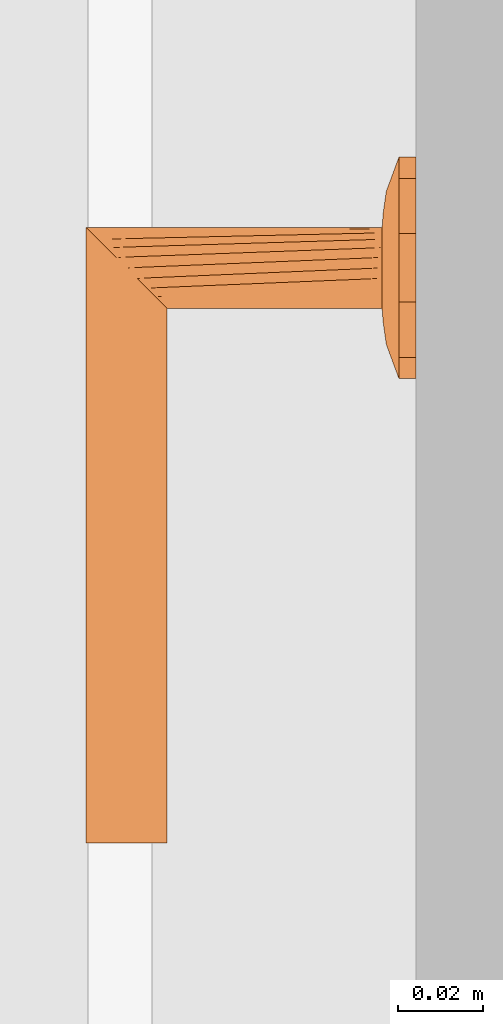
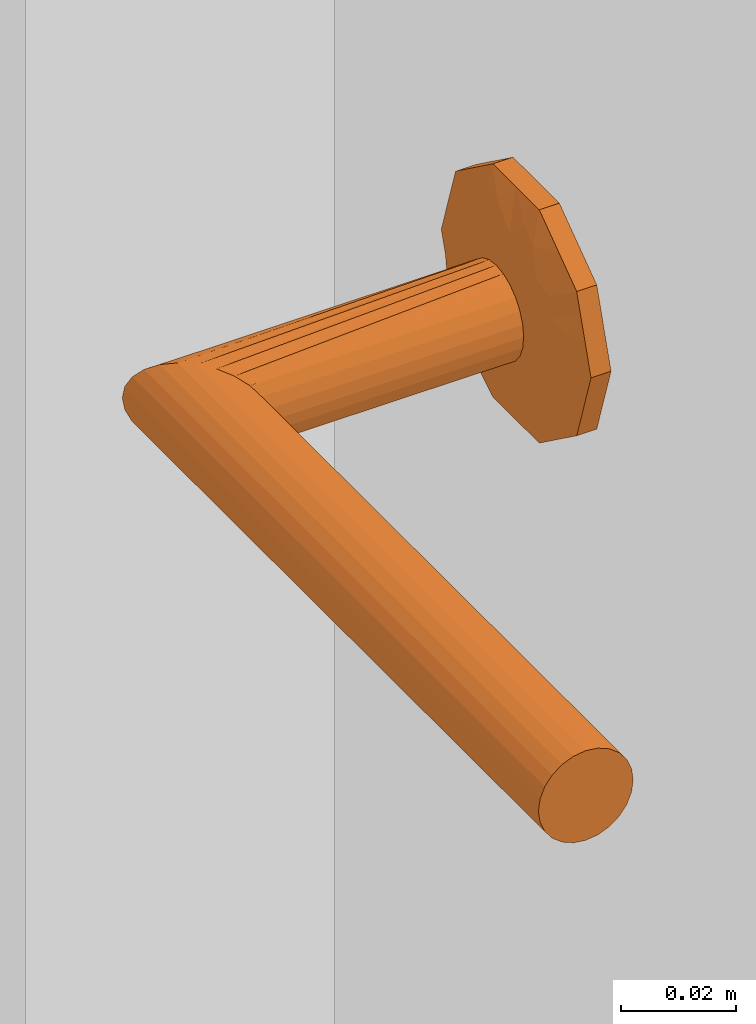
# One storey, part 40 of 42: 1 proxy.
"""IFC2X3 building model written with IfcOpenShell, lengths in millimetres."""

from ifc_helpers import new_model, entity, si_unit, converted_unit, direction, frame, origin, place, context, subcontext, project, spatial, faceted_brep, source, transform, mapped, material, type_object, type_shapes, element, save


model = new_model("IFC2X3")

# Units and contexts
model_context = context("Model", 3, precision=0.01, world=origin(), true_north=direction((6.123233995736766e-17, 1.0)))
plan_context = context("Plan", 3, precision=0.01, world=origin(), true_north=direction((6.123233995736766e-17, 1.0)))
body_context = subcontext(model_context, "Body", "Model", "MODEL_VIEW")
ifc_project = project(units=[si_unit("LENGTHUNIT", "METRE", prefix="MILLI"), converted_unit("PLANEANGLEUNIT", "DEGREE", entity("IfcPlaneAngleMeasure", 0.017453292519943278), si_unit("PLANEANGLEUNIT", "RADIAN"), dimensions=[0, 0, 0, 0, 0, 0, 0]), si_unit("AREAUNIT", "SQUARE_METRE")], contexts=[model_context, plan_context])

# Site, building, storey
site_placement = place(None, origin())
site = spatial("IfcSite", under=ifc_project, at=site_placement, Name="Default", CompositionType="ELEMENT")
building_placement = place(site_placement, origin())
building = spatial("IfcBuilding", under=site, at=building_placement, CompositionType="ELEMENT")
storey_placement = place(building_placement, frame((0.0, 0.0, 9465.000076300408)))
storey = spatial("IfcBuildingStorey", under=building, at=storey_placement, Name="4K", CompositionType="ELEMENT", Elevation=9465.000076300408)

# Proxy
ifc_material = material(Name="<Unnamed>")
building_element_proxy_type = type_object("IfcBuildingElementProxyType", Name="Door-handle_Lever_ABLOY_INOXI_3-19ss-002_RT:Default", PredefinedType="NOTDEFINED", material=ifc_material)
shared_shape = source(origin(), body_context, "Body", "Brep", [
    faceted_brep([(0.0, 0.0, 0.0), (8.034441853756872, 24.72746942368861, 0.0), (14.534441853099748, 20.00494299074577, 0.0), (21.034441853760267, 15.282416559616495, 0.0), (23.51722092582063, 7.641208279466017, 0.0), (26.0, 0.0, 0.0), (23.517220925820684, -7.641208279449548, 0.0), (0.0, 24.72746942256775, 0.0), (-8.034441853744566, 24.727469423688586, 0.0), (-14.534441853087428, 20.00494299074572, 0.0), (-21.03444185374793, 15.282416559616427, 0.0), (-23.517220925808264, 7.641208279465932, 0.0), (-26.0, 0.0, 0.0), (21.034441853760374, -15.282416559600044, 0.0), (14.534441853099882, -20.004942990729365, 0.0), (8.034441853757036, -24.72746942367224, 0.0), (0.0, -24.72746942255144, 0.0), (-23.517220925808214, -7.641208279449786, 0.0), (-21.034441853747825, -15.282416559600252, 0.0), (-14.53444185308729, -20.004942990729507, 0.0), (-8.0344418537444, -24.72746942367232, 0.0), (0.0, 0.0, 8.0), (9.500000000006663, 0.0, 8.0), (8.312500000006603, 2.056810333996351, 8.0), (7.125000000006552, 4.113620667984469, 8.0), (5.937500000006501, 6.170431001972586, 8.0), (4.7500000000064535, 8.227241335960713, 8.0), (2.375000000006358, 8.2272413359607, 8.0), (0.0, 8.227241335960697, 8.0), (-2.3749999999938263, 8.227241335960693, 8.0), (-4.749999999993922, 8.227241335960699, 8.0), (-5.937499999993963, 6.1704310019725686, 8.0), (-7.124999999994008, 4.1136206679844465, 8.0), (-8.312499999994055, 2.0568103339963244, 8.0), (-9.499999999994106, 0.0, 8.0), (-8.31249999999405, -2.0568103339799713, 8.0), (8.312500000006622, -2.0568103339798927, 8.0), (7.125000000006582, -4.113620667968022, 8.0), (5.937500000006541, -6.170431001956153, 8.0), (4.750000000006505, -8.227241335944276, 8.0), (-7.124999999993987, -4.113620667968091, 8.0), (-5.9374999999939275, -6.17043100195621, 8.0), (-4.74999999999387, -8.227241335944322, 8.0), (-2.374999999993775, -8.227241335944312, 8.0), (0.0, -8.227241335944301, 8.0), (2.3750000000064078, -8.227241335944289, 8.0), (-20.6430713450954, 6.292822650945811, 5.929480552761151), (-16.663919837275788, 7.932665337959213, 6.877259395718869), (-22.48876527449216, 10.806469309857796, 4.030771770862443), (-16.764060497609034, 3.8202578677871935, 7.1747985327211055), (-12.504579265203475, 5.179566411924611, 7.774932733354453), (-11.979136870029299, 13.678312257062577, 6.945778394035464), (-11.963426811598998, 8.62529041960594, 7.618343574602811), (-9.07172672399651, 10.31160661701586, 7.7520782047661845), (8.03444185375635, 24.727469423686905, 4.030771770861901), (0.0, 24.72746942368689, 4.030771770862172), (5.758554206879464, 20.96753300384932, 5.871476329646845), (20.643071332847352, 6.292822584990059, 5.929480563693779), (22.488765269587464, 10.806469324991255, 4.03077177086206), (16.66391982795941, 7.9326653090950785, 6.877259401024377), (9.49943163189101, 18.6436835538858, 6.154325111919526), (14.534441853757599, 20.004942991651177, 4.030771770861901), (-14.534441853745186, 20.00494299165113, 4.030771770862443), (-21.034441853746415, 15.282416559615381, 4.030771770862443), (-15.783149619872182, 11.991003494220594, 6.50080018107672), (-23.943088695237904, 6.330522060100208, 4.030771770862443), (-23.012042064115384, 0.0, 5.135401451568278), (12.50457924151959, 5.179566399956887, 7.774932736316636), (11.963426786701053, 8.625290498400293, 7.618343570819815), (16.76406041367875, 3.820257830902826, 7.17479855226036), (15.783149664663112, 11.991003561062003, 6.50080015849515), (23.01204200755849, 0.0, 5.135401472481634), (17.9853516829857, 0.0, 6.993737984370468), (8.661516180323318, 10.478936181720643, 7.768126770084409), (-3.3573143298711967, 21.197247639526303, 5.971427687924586), (-8.03444185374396, 24.727469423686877, 4.030771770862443), (-7.711266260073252, 12.76034452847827, 7.594456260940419), (-5.97325794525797, 16.43013906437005, 7.110979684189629), (-9.94191586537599, 17.061976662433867, 6.522757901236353), (11.979136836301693, 13.678312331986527, 6.945778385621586), (5.953298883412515, 16.50608604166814, 7.096344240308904), (7.511307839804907, 13.358932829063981, 7.529187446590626), (-1.5654593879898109, 15.307443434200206, 7.519134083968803), (-7.784980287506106, 20.476295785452, 5.812837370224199), (2.8135289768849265, 17.763922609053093, 6.993737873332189), (-17.985351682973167, 0.0, 6.993737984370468), (-26.0, 0.0, 4.030771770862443), (-23.51722092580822, 7.641208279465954, 4.030771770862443), (26.0, 0.0, 4.030771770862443), (24.308823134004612, 5.204907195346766, 4.030771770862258), (23.943088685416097, 6.330522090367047, 4.030771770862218), (21.03444185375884, 15.282416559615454, 4.030771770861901), (22.617646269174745, 10.40981439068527, 4.030771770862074), (20.6430713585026, -6.292822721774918, 5.929480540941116), (16.663919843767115, -7.932665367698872, 6.877259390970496), (22.48876527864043, -10.8064692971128, 4.030771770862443), (16.764060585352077, -3.8202579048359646, 7.174798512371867), (12.504579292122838, -5.17956641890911, 7.774932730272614), (11.979136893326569, -13.678312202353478, 6.9457784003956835), (11.963426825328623, -8.62529034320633, 7.618343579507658), (9.071726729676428, -10.311606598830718, 7.752078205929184), (-8.03444185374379, -24.727469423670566, 4.030771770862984), (0.0, -24.727469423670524, 4.030771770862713), (-5.758554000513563, -20.96753314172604, 5.8714763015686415), (-20.643071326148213, -6.292822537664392, 5.929480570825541), (-22.488765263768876, -10.80646934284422, 4.030771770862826), (-16.66391981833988, -7.932665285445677, 6.877259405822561), (-9.499431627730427, -18.643683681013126, 6.154325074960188), (-14.534441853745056, -20.004942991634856, 4.030771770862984), (14.53444185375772, -20.00494299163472, 4.030771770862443), (21.034441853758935, -15.282416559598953, 4.030771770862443), (15.783149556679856, -11.991003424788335, 6.5008002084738), (23.943088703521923, -6.330522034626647, 4.030771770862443), (-12.504579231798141, -5.17956638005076, 7.77493273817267), (-11.963426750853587, -8.625290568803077, 7.618343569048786), (-16.764060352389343, -3.8202577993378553, 7.174798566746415), (-15.783149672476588, -11.991003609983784, 6.500800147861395), (-8.661516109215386, -10.478936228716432, 7.768126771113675), (3.3573144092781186, -21.197247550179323, 5.971427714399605), (8.034441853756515, -24.727469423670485, 4.030771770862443), (7.711266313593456, -12.760344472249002, 7.5944562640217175), (5.9732581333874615, -16.430139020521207, 7.110979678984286), (9.941915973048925, -17.06197655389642, 6.522757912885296), (-11.979136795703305, -13.678312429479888, 6.945778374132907), (-5.953298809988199, -16.506086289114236, 7.096344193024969), (-7.511307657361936, -13.358932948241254, 7.5291874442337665), (1.5654596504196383, -15.3074431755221, 7.519134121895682), (7.784980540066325, -20.476295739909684, 5.812837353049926), (-2.81352881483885, -17.76392263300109, 6.993737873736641), (23.517220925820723, -7.64120827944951, 4.030771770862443), (-24.308823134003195, -5.20490719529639, 4.030771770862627), (-23.943088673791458, -6.330522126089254, 4.030771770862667), (-21.034441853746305, -15.282416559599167, 4.030771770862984), (-22.617646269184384, -10.409814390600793, 4.0307717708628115)], [[[0, 1, 2]], [[0, 2, 3]], [[0, 3, 4]], [[0, 4, 5]], [[0, 5, 6]], [[0, 7, 1]], [[0, 8, 7]], [[0, 9, 8]], [[0, 10, 9]], [[0, 11, 10]], [[0, 12, 11]], [[0, 6, 13]], [[0, 13, 14]], [[0, 14, 15]], [[0, 15, 16]], [[0, 17, 12]], [[0, 18, 17]], [[0, 19, 18]], [[0, 20, 19]], [[0, 16, 20]], [[21, 22, 23]], [[21, 23, 24]], [[21, 24, 25]], [[21, 25, 26]], [[21, 26, 27]], [[21, 27, 28]], [[21, 28, 29]], [[21, 29, 30]], [[21, 30, 31]], [[21, 31, 32]], [[21, 32, 33]], [[21, 33, 34]], [[21, 34, 35]], [[21, 36, 22]], [[21, 37, 36]], [[21, 38, 37]], [[21, 39, 38]], [[21, 35, 40]], [[21, 40, 41]], [[21, 41, 42]], [[21, 42, 43]], [[21, 43, 44]], [[21, 44, 45]], [[21, 45, 39]], [[46, 47, 48]], [[49, 50, 47]], [[33, 32, 50]], [[51, 52, 53]], [[32, 52, 50]], [[49, 47, 46]], [[54, 55, 56]], [[57, 58, 59]], [[60, 61, 54]], [[62, 63, 64]], [[46, 65, 66]], [[67, 59, 68]], [[23, 69, 67]], [[70, 68, 59]], [[23, 22, 69]], [[52, 51, 64]], [[71, 69, 72]], [[73, 25, 68]], [[74, 55, 75]], [[76, 77, 78]], [[70, 61, 79]], [[71, 57, 69]], [[60, 80, 81]], [[51, 76, 78]], [[77, 29, 82]], [[26, 81, 27]], [[74, 83, 77]], [[77, 82, 74]], [[74, 84, 55]], [[34, 49, 85]], [[23, 67, 24]], [[28, 84, 82]], [[74, 82, 84]], [[29, 76, 30]], [[29, 28, 82]], [[49, 34, 33]], [[47, 50, 52]], [[47, 52, 64]], [[50, 49, 33]], [[53, 76, 51]], [[52, 32, 31]], [[49, 66, 85]], [[86, 66, 65]], [[24, 67, 68]], [[83, 78, 77]], [[49, 46, 66]], [[48, 64, 63]], [[46, 48, 87, 65]], [[48, 47, 64]], [[59, 67, 69]], [[26, 73, 81]], [[79, 68, 70]], [[25, 24, 68]], [[71, 88, 89, 90]], [[22, 72, 69]], [[59, 69, 57]], [[79, 61, 60]], [[51, 62, 64]], [[70, 58, 91]], [[90, 57, 71]], [[58, 70, 59]], [[57, 90, 92]], [[79, 60, 81]], [[61, 70, 91]], [[56, 80, 60]], [[79, 81, 73]], [[80, 84, 27]], [[79, 73, 68]], [[27, 84, 28]], [[25, 73, 26]], [[77, 76, 29]], [[31, 30, 53]], [[78, 62, 51]], [[75, 62, 83]], [[78, 83, 62]], [[75, 83, 74]], [[76, 53, 30]], [[31, 53, 52]], [[81, 80, 27]], [[84, 80, 56]], [[84, 56, 55]], [[54, 56, 60]], [[93, 94, 95]], [[96, 97, 94]], [[36, 37, 97]], [[98, 99, 100]], [[37, 99, 97]], [[96, 94, 93]], [[101, 102, 103]], [[104, 105, 106]], [[107, 108, 101]], [[109, 110, 111]], [[93, 112, 71]], [[113, 106, 114]], [[35, 115, 113]], [[116, 114, 106]], [[35, 34, 115]], [[99, 98, 111]], [[66, 115, 85]], [[117, 41, 114]], [[118, 102, 119]], [[120, 121, 122]], [[116, 108, 123]], [[66, 104, 115]], [[107, 124, 125]], [[120, 45, 121]], [[121, 45, 126]], [[42, 125, 43]], [[118, 127, 121]], [[121, 126, 118]], [[118, 128, 102]], [[22, 96, 72]], [[35, 113, 40]], [[44, 128, 126]], [[118, 126, 128]], [[45, 120, 39]], [[45, 44, 126]], [[96, 22, 36]], [[94, 97, 99]], [[94, 99, 111]], [[97, 96, 36]], [[100, 120, 98]], [[99, 37, 38]], [[96, 71, 72]], [[88, 71, 112]], [[40, 113, 114]], [[127, 122, 121]], [[96, 93, 71]], [[95, 111, 110]], [[93, 95, 129, 112]], [[95, 94, 111]], [[106, 113, 115]], [[42, 117, 125]], [[123, 114, 116]], [[41, 40, 114]], [[66, 86, 130, 131]], [[34, 85, 115]], [[106, 115, 104]], [[123, 108, 107]], [[98, 109, 111]], [[116, 105, 132]], [[131, 104, 66]], [[105, 116, 106]], [[104, 131, 133]], [[123, 107, 125]], [[108, 116, 132]], [[103, 124, 107]], [[123, 125, 117]], [[124, 128, 43]], [[123, 117, 114]], [[43, 128, 44]], [[41, 117, 42]], [[38, 39, 100]], [[98, 120, 122]], [[122, 109, 98]], [[119, 109, 127]], [[122, 127, 109]], [[119, 127, 118]], [[120, 100, 39]], [[38, 100, 99]], [[125, 124, 43]], [[128, 124, 103]], [[128, 103, 102]], [[101, 103, 107]], [[9, 10, 63, 62, 75, 8]], [[11, 12, 86, 65, 87, 48, 63, 10]], [[4, 3, 92, 90, 89, 88, 5]], [[3, 91, 58]], [[55, 54, 1, 7, 8, 75]], [[3, 2, 1, 54, 61, 91]], [[13, 6, 5, 88, 112, 129, 95, 110]], [[119, 15, 14, 13, 110, 109]], [[17, 18, 133, 131, 130, 86, 12]], [[18, 132, 105]], [[102, 101, 20, 16, 15, 119]], [[18, 19, 20, 101, 108, 132]], [[57, 92, 58]], [[104, 133, 105]], [[3, 58, 92]], [[18, 105, 133]]]),
    faceted_brep([(0.0, 9.499999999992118, 8.0), (2.4587809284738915, 9.176295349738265, 8.0), (4.7499999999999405, 8.22724133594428, 8.0), (6.717514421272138, 6.7175144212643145, 8.0), (8.227241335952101, 4.749999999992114, 8.0), (9.17629534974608, 2.458780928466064, 8.0), (9.499999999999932, 0.0, 8.0), (9.17629534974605, -2.458780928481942, 8.0), (8.22724133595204, -4.75000000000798, 8.0), (6.717514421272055, -6.717514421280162, 8.0), (4.7499999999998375, -8.227241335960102, 8.0), (2.4587809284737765, -9.176295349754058, 8.0), (0.0, -9.500000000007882, 8.0), (-2.4587809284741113, -9.176295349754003, 8.0), (-4.750000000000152, -8.227241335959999, 8.0), (-6.717514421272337, -6.717514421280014, 8.0), (-8.227241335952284, -4.750000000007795, 8.0), (-9.176295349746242, -2.458780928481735, 8.0), (-9.500000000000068, 0.0, 8.0), (-9.176295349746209, 2.4587809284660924, 8.0), (-8.227241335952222, 4.74999999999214, 8.0), (-6.717514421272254, 6.717514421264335, 8.0), (-4.7500000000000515, 8.227241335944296, 8.0), (-2.4587809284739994, 9.176295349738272, 8.0), (-6.717514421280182, -6.7175144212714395, 61.282485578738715), (-8.227241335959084, -4.7499999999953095, 59.772758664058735), (-9.176295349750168, -2.458780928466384, 58.82370465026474), (-2.4587809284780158, -9.176295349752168, 65.54121907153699), (-4.750000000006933, -8.227241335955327, 63.25000000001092), (-9.500000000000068, 0.0, 58.50000000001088), (0.0, -9.50000000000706, 68.0), (2.4587809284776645, -9.17629534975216, 70.45878092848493), (4.750000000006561, -8.227241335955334, 72.75000000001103), (6.717514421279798, -6.7175144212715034, 74.71751442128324), (9.17629534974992, -2.458780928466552, 77.17629534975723), (8.22724133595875, -4.749999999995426, 76.22724133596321), (9.499999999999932, 0.0, 77.50000000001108), (9.176295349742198, 2.4587809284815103, 77.1762953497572), (8.227241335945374, 4.750000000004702, 76.22724133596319), (4.749999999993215, 8.227241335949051, 72.75000000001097), (6.7175144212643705, 6.717514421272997, 74.7175144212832), (2.4587809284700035, 9.17629534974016, 70.45878092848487), (-2.4587809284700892, 9.176295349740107, 65.54121907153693), (0.0, 9.49999999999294, 68.0), (-6.717514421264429, 6.717514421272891, 61.282485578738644), (-4.749999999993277, 8.227241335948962, 63.250000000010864), (-9.176295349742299, 2.458780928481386, 58.8237046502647), (-8.227241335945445, 4.750000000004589, 59.77275866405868), (-135.0, 9.500000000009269, 68.0), (-135.0, 9.176295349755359, 65.54121907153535), (-135.0, 8.227241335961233, 63.25000000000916), (-135.0, 6.7175144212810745, 61.28248557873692), (-135.0, 4.750000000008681, 59.772758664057), (-135.0, 2.458780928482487, 58.82370465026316), (-135.0, 0.0, 58.50000000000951), (-135.0, -2.458780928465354, 58.823704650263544), (-135.0, -4.749999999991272, 59.772758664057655), (-135.0, -6.717514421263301, 61.28248557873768), (-135.0, -8.227241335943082, 63.250000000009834), (-135.0, -9.17629534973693, 65.54121907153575), (-135.0, -9.499999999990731, 68.0), (-135.0, -9.17629534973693, 70.45878092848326), (-135.0, -8.227241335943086, 72.75000000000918), (-135.0, -6.717514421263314, 74.71751442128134), (-135.0, -4.749999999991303, 76.22724133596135), (-135.0, -2.4587809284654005, 77.17629534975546), (-135.0, 0.0, 77.5000000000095), (-135.0, 2.4587809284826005, 77.17629534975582), (-135.0, 4.750000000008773, 76.22724133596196), (-135.0, 6.717514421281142, 74.71751442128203), (-135.0, 8.227241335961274, 72.75000000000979), (-135.0, 9.176295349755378, 70.4587809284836)], [[[0, 1, 2, 3, 4, 5, 6, 7, 8, 9, 10, 11, 12, 13, 14, 15, 16, 17, 18, 19, 20, 21, 22, 23]], [[15, 24, 25, 16]], [[16, 25, 26, 17]], [[27, 28, 12]], [[12, 28, 13]], [[13, 28, 24]], [[18, 17, 26, 29]], [[24, 15, 14]], [[14, 13, 24]], [[11, 30, 27]], [[31, 9, 32]], [[32, 8, 33]], [[34, 35, 7]], [[7, 35, 33]], [[36, 34, 7, 6]], [[30, 11, 10]], [[11, 27, 12]], [[33, 8, 7]], [[8, 32, 9]], [[31, 10, 9]], [[10, 31, 30]], [[37, 36, 6, 5]], [[37, 5, 38]], [[39, 40, 4]], [[5, 40, 38]], [[41, 39, 3]], [[5, 4, 40]], [[42, 43, 1]], [[2, 1, 43]], [[2, 41, 3]], [[39, 4, 3]], [[2, 43, 41]], [[23, 44, 45]], [[0, 45, 42]], [[19, 18, 29, 46]], [[20, 19, 46, 47]], [[21, 20, 47, 44]], [[23, 22, 44]], [[45, 0, 23]], [[44, 22, 21]], [[1, 0, 42]], [[48, 49, 50, 51, 52, 53, 54, 55, 56, 57, 58, 59, 60, 61, 62, 63, 64, 65, 66, 67, 68, 69, 70, 71]], [[26, 25, 56, 55]], [[29, 26, 55, 54]], [[28, 27, 59, 58]], [[24, 28, 58, 57]], [[25, 24, 57, 56]], [[27, 30, 60, 59]], [[32, 33, 63, 62]], [[31, 32, 62, 61]], [[34, 36, 66, 65]], [[35, 34, 65, 64]], [[33, 35, 64, 63]], [[61, 60, 30, 31]], [[38, 68, 67, 37]], [[37, 67, 66, 36]], [[41, 71, 70, 39]], [[39, 70, 69, 40]], [[40, 69, 68, 38]], [[48, 71, 41, 43]], [[44, 51, 50, 45]], [[45, 50, 49, 42]], [[29, 54, 53, 46]], [[46, 53, 52, 47]], [[47, 52, 51, 44]], [[42, 49, 48, 43]]]),
])
type_shapes(building_element_proxy_type, [shared_shape])
proxy_placement = place(storey_placement, frame((12038.0, 11616.0, 1000.0), z_axis=(-1.0, 0.0, 0.0), x_axis=(0.0, 1.0, 0.0)))
element("IfcBuildingElementProxy", 1, at=proxy_placement, inside=storey, type_object=building_element_proxy_type, material=ifc_material, Name="Door-handle_Lever_ABLOY_INOXI_3-19ss-002_RT:Default", ObjectType="Door-handle_Lever_ABLOY_INOXI_3-19ss-002_RT:Default", context=body_context, shape_type="MappedRepresentation", body=[
    mapped(shared_shape, transform((0.0, 0.0, 0.0), scale=1.0)),
])

save(model, "model.ifc")
